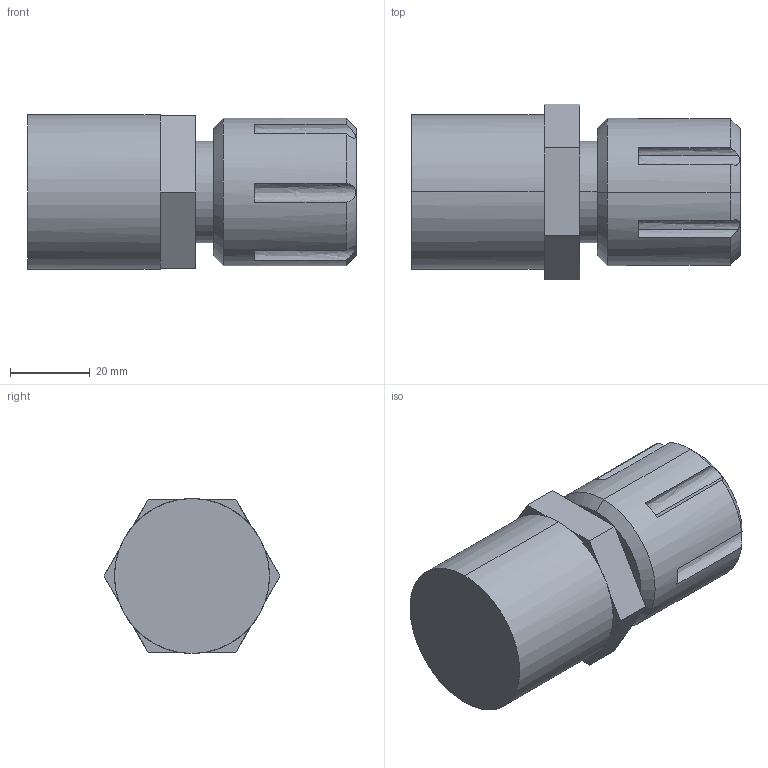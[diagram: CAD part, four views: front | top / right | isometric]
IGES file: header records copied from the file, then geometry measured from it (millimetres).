
Start section: SolidWorks IGES file using analytic representation for surfaces
Global section: file name: \\server\Groups\Product Visuals\Pumps to be Defeatured\140 fittings\FITTING ASSEMBLIES\DEFEATURED\12 FLARETEC FITTING.IGS; native system: SolidWorks 2012; preprocessor: SolidWorks 2012; author: karen.bodily; date: 121130.115058; units: inch
Bounding box: 82.24 x 43.99 x 38.79 mm (x, y, z)
Surface area: 13986 mm2 (no closed solid volume)
Topology: 0 solids, 0 shells, 49 faces, 838 edges, 838 vertices
Faces by surface type: bspline 29, revolution 20
